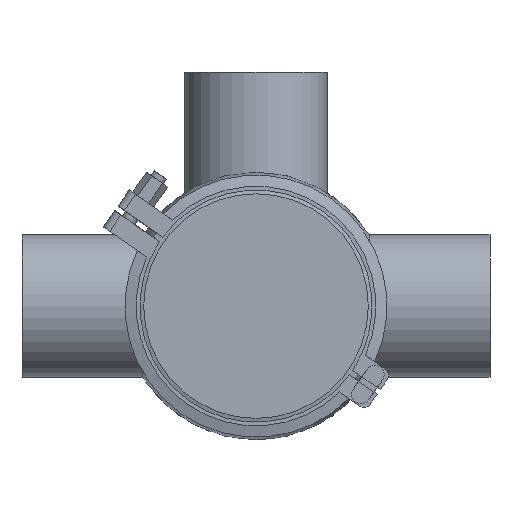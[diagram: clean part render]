
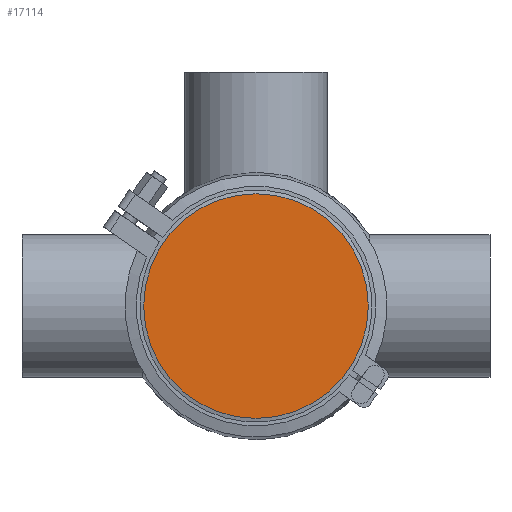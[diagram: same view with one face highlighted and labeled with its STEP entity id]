
A CAD part, front view. The second image highlights one B-rep face of the part: STEP entity #17114.
In plain terms, the highlighted planar face has unit normal (0, -1, 0).
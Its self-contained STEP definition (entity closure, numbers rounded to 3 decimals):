
#354 = DIRECTION ( 'NONE',  ( 0., 0., 1. ) ) ;
#846 = PLANE ( 'NONE',  #6040 ) ;
#2372 = FACE_OUTER_BOUND ( 'NONE', #6769, .T. ) ;
#2929 = EDGE_CURVE ( 'NONE', #14237, #14237, #3121, .T. ) ;
#3121 = CIRCLE ( 'NONE', #12164, 60. ) ;
#3447 = ORIENTED_EDGE ( 'NONE', *, *, #2929, .F. ) ;
#6040 = AXIS2_PLACEMENT_3D ( 'NONE', #12278, #10651, #7489 ) ;
#6769 = EDGE_LOOP ( 'NONE', ( #3447 ) ) ;
#7489 = DIRECTION ( 'NONE',  ( 0., 0., -1. ) ) ;
#10651 = DIRECTION ( 'NONE',  ( 0., -1., 0. ) ) ;
#12164 = AXIS2_PLACEMENT_3D ( 'NONE', #19985, #20214, #354 ) ;
#12278 = CARTESIAN_POINT ( 'NONE',  ( -60., 0., 0. ) ) ;
#14237 = VERTEX_POINT ( 'NONE', #19620 ) ;
#17114 = ADVANCED_FACE ( 'NONE', ( #2372 ), #846, .T. ) ;
#19620 = CARTESIAN_POINT ( 'NONE',  ( 0., 0., 60. ) ) ;
#19985 = CARTESIAN_POINT ( 'NONE',  ( 0., 0., 0. ) ) ;
#20214 = DIRECTION ( 'NONE',  ( 0., 1., 0. ) ) ;
